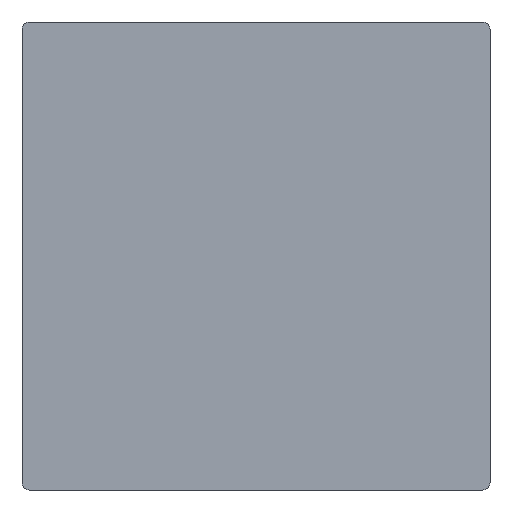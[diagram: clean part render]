
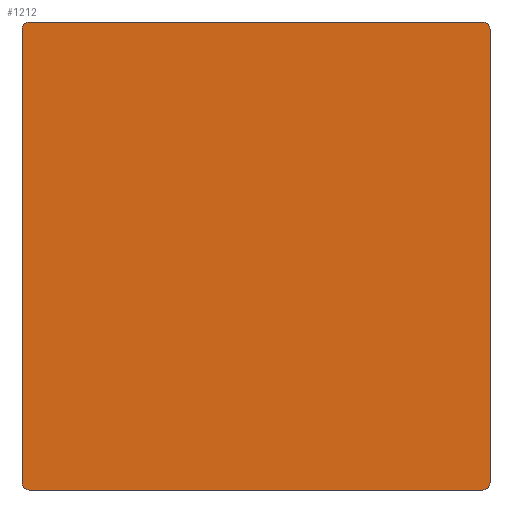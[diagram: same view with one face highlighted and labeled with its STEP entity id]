
A CAD part, front view. The second image highlights one B-rep face of the part: STEP entity #1212.
In plain terms, the highlighted planar face has unit normal (0, -1, 0).
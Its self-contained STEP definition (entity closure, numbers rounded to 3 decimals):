
#132=PLANE('',#1382);
#204=LINE('',#2355,#287);
#210=LINE('',#2375,#293);
#213=LINE('',#2383,#296);
#215=LINE('',#2389,#298);
#287=VECTOR('',#1715,10.);
#293=VECTOR('',#1735,10.);
#296=VECTOR('',#1744,10.);
#298=VECTOR('',#1752,10.);
#394=FACE_OUTER_BOUND('',#487,.T.);
#487=EDGE_LOOP('',(#1115,#1116,#1117,#1118,#1119,#1120,#1121,#1122));
#544=CIRCLE('',#1366,4.);
#549=CIRCLE('',#1374,4.);
#550=CIRCLE('',#1377,4.);
#551=CIRCLE('',#1380,4.);
#642=VERTEX_POINT('',#2342);
#643=VERTEX_POINT('',#2343);
#647=VERTEX_POINT('',#2353);
#653=VERTEX_POINT('',#2369);
#654=VERTEX_POINT('',#2373);
#655=VERTEX_POINT('',#2377);
#656=VERTEX_POINT('',#2381);
#657=VERTEX_POINT('',#2385);
#789=EDGE_CURVE('',#642,#643,#544,.T.);
#795=EDGE_CURVE('',#642,#647,#204,.T.);
#802=EDGE_CURVE('',#653,#647,#549,.T.);
#805=EDGE_CURVE('',#653,#654,#210,.T.);
#806=EDGE_CURVE('',#655,#654,#550,.T.);
#809=EDGE_CURVE('',#655,#656,#213,.T.);
#810=EDGE_CURVE('',#657,#656,#551,.T.);
#812=EDGE_CURVE('',#657,#643,#215,.T.);
#1115=ORIENTED_EDGE('',*,*,#789,.F.);
#1116=ORIENTED_EDGE('',*,*,#795,.T.);
#1117=ORIENTED_EDGE('',*,*,#802,.F.);
#1118=ORIENTED_EDGE('',*,*,#805,.T.);
#1119=ORIENTED_EDGE('',*,*,#806,.F.);
#1120=ORIENTED_EDGE('',*,*,#809,.T.);
#1121=ORIENTED_EDGE('',*,*,#810,.F.);
#1122=ORIENTED_EDGE('',*,*,#812,.T.);
#1212=ADVANCED_FACE('',(#394),#132,.T.);
#1366=AXIS2_PLACEMENT_3D('',#2344,#1705,#1706);
#1374=AXIS2_PLACEMENT_3D('',#2370,#1729,#1730);
#1377=AXIS2_PLACEMENT_3D('',#2378,#1738,#1739);
#1380=AXIS2_PLACEMENT_3D('',#2386,#1747,#1748);
#1382=AXIS2_PLACEMENT_3D('',#2390,#1753,#1754);
#1705=DIRECTION('center_axis',(0.,1.,0.));
#1706=DIRECTION('ref_axis',(0.707,0.,-0.707));
#1715=DIRECTION('',(0.,0.,1.));
#1729=DIRECTION('center_axis',(0.,1.,0.));
#1730=DIRECTION('ref_axis',(0.707,0.,0.707));
#1735=DIRECTION('',(-1.,0.,0.));
#1738=DIRECTION('center_axis',(0.,1.,0.));
#1739=DIRECTION('ref_axis',(-0.707,0.,0.707));
#1744=DIRECTION('',(0.,0.,-1.));
#1747=DIRECTION('center_axis',(0.,1.,0.));
#1748=DIRECTION('ref_axis',(-0.707,0.,-0.707));
#1752=DIRECTION('',(1.,0.,0.));
#1753=DIRECTION('center_axis',(0.,-1.,0.));
#1754=DIRECTION('ref_axis',(0.,0.,-1.));
#2342=CARTESIAN_POINT('',(125.,-177.5,-121.));
#2343=CARTESIAN_POINT('',(121.,-177.5,-125.));
#2344=CARTESIAN_POINT('Origin',(121.,-177.5,-121.));
#2353=CARTESIAN_POINT('',(125.,-177.5,121.));
#2355=CARTESIAN_POINT('',(125.,-177.5,-125.));
#2369=CARTESIAN_POINT('',(121.,-177.5,125.));
#2370=CARTESIAN_POINT('Origin',(121.,-177.5,121.));
#2373=CARTESIAN_POINT('',(-121.,-177.5,125.));
#2375=CARTESIAN_POINT('',(125.,-177.5,125.));
#2377=CARTESIAN_POINT('',(-125.,-177.5,121.));
#2378=CARTESIAN_POINT('Origin',(-121.,-177.5,121.));
#2381=CARTESIAN_POINT('',(-125.,-177.5,-121.));
#2383=CARTESIAN_POINT('',(-125.,-177.5,125.));
#2385=CARTESIAN_POINT('',(-121.,-177.5,-125.));
#2386=CARTESIAN_POINT('Origin',(-121.,-177.5,-121.));
#2389=CARTESIAN_POINT('',(-125.,-177.5,-125.));
#2390=CARTESIAN_POINT('Origin',(0.,-177.5,0.));
